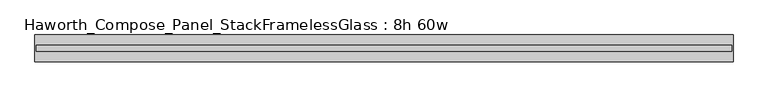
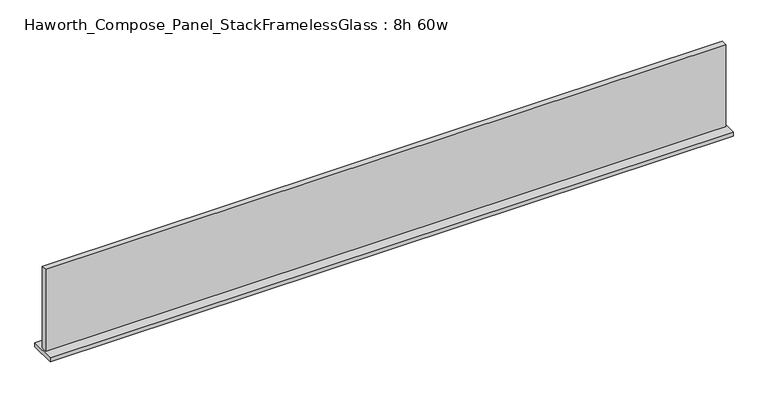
"""IFC4 building model written with IfcOpenShell, lengths in millimetres: furniture geometry, Haworth_Compose_Panel_StackFramelessGlass : 8h 60w."""

from ifc_helpers import new_model, si_unit, frame, origin, place, context, project, spatial, polyline, outline, extrude, source, transform, mapped, element, save


def haworth_compose_panel_stackframelessglass_8h_60w_c9df2e2f(model_context):
    return source(origin(), model_context, "Body", "SweptSolid", [
        extrude(outline(polyline([(761.2652902, 27.3093594), (761.2652902, 14.6093594), (-756.3847098, 14.6093594), (-756.3847098, 27.3093594), (761.2652902, 27.3093594)])), frame((0.0, 0.0, 1076.325), z_axis=(0.0, 0.0, 1.0), x_axis=(1.0, 0.0, 0.0)), (0.0, 0.0, 1.0), 193.675),
        extrude(outline(polyline([(-759.5597098, 50.3281094), (764.4402902, 50.3281094), (764.4402902, -8.4093906), (-759.5597098, -8.4093906), (-759.5597098, 50.3281094)])), frame((0.0, 0.0, 1066.8), z_axis=(0.0, 0.0, 1.0), x_axis=(1.0, 0.0, 0.0)), (0.0, 0.0, 1.0), 9.525),
    ])


if __name__ == "__main__":
    model = new_model("IFC4")
    model_context = context("Model", 3, world=origin())
    ifc_project = project(units=[si_unit("LENGTHUNIT", "METRE", prefix="MILLI")], contexts=[model_context])
    site = spatial("IfcSite", under=ifc_project)
    building = spatial("IfcBuilding", under=site)
    placement = place(None, origin())
    haworth_compose_panel_stackframelessglass_8h_60w_shape = haworth_compose_panel_stackframelessglass_8h_60w_c9df2e2f(model_context)
    element("IfcFurniture", 1, ObjectType="Haworth_Compose_Panel_StackFramelessGlass : 8h 60w", at=placement, inside=building, context=model_context, shape_type="MappedRepresentation", body=[
        mapped(haworth_compose_panel_stackframelessglass_8h_60w_shape, transform((0.0, 0.0, 0.0), x_axis=(1.0, 0.0, 0.0), y_axis=(0.0, 1.0, 0.0), z_axis=(0.0, 0.0, 1.0))),
    ])
    save(model, "model.ifc")
